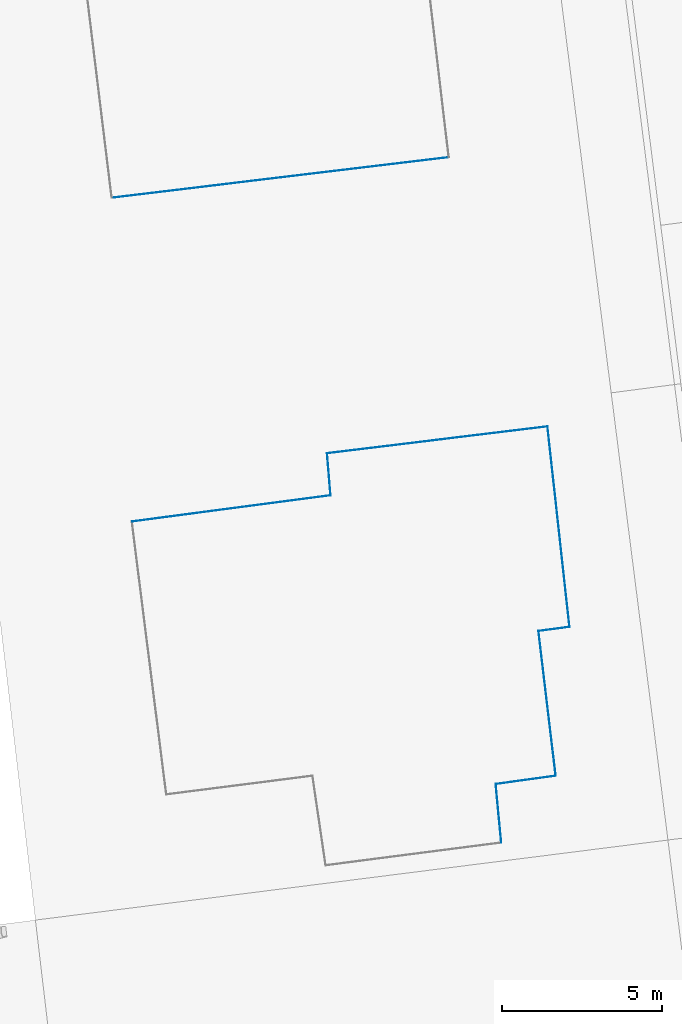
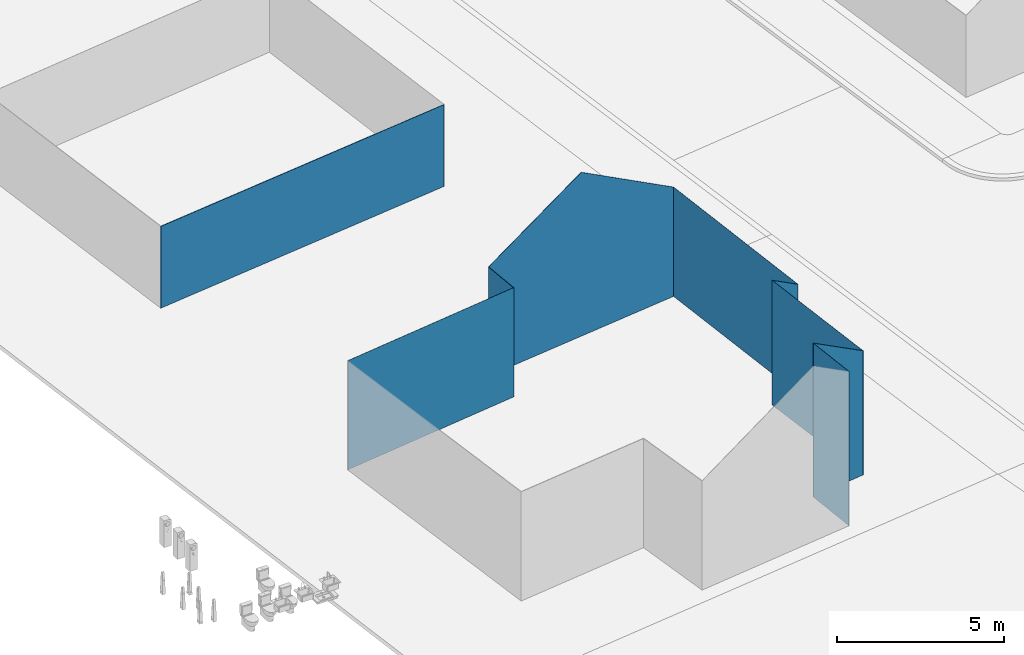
# One storey, part 22 of 75: 9 walls.
"""IFC2X3 building model written with IfcOpenShell, lengths in metres."""

from ifc_helpers import new_model, entity, si_unit, converted_unit, derived_unit, direction, frame, origin, place, context, subcontext, project, spatial, polyline, outline, extrude, clip, bounded_halfspace, material, layer, layer_set, layer_usage, type_object, element, save


model = new_model("IFC2X3")

# Units and contexts
model_context = context("Model", 3, precision=1e-05, world=origin(), true_north=direction((6.123031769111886e-17, 1.0)))
body_context = subcontext(model_context, "Body", "Model", "MODEL_VIEW")
ifc_project = project(units=[si_unit("LENGTHUNIT", "METRE"), si_unit("AREAUNIT", "SQUARE_METRE"), si_unit("VOLUMEUNIT", "CUBIC_METRE"), converted_unit("PLANEANGLEUNIT", "DEGREE", entity("IfcRatioMeasure", 0.017453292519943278), si_unit("PLANEANGLEUNIT", "RADIAN"), dimensions=[0, 0, 0, 0, 0, 0, 0]), si_unit("MASSUNIT", "GRAM", prefix="KILO"), derived_unit("MASSDENSITYUNIT", [(si_unit("MASSUNIT", "GRAM", prefix="KILO"), 1), (si_unit("LENGTHUNIT", "METRE"), -3)]), derived_unit("IONCONCENTRATIONUNIT", [(si_unit("MASSUNIT", "GRAM", prefix="KILO"), 1), (si_unit("LENGTHUNIT", "METRE"), -3)]), derived_unit("MOMENTOFINERTIAUNIT", [(si_unit("LENGTHUNIT", "METRE"), 4)]), si_unit("TIMEUNIT", "SECOND"), si_unit("FREQUENCYUNIT", "HERTZ"), si_unit("THERMODYNAMICTEMPERATUREUNIT", "DEGREE_CELSIUS"), derived_unit("THERMALTRANSMITTANCEUNIT", [(si_unit("MASSUNIT", "GRAM", prefix="KILO"), 1), (si_unit("THERMODYNAMICTEMPERATUREUNIT", "KELVIN"), -1), (si_unit("TIMEUNIT", "SECOND"), -3)]), derived_unit("THERMALCONDUCTANCEUNIT", [(si_unit("MASSUNIT", "GRAM", prefix="KILO"), 1), (si_unit("THERMODYNAMICTEMPERATUREUNIT", "KELVIN"), -1), (si_unit("TIMEUNIT", "SECOND"), -3), (si_unit("LENGTHUNIT", "METRE"), 1)]), derived_unit("VOLUMETRICFLOWRATEUNIT", [(si_unit("LENGTHUNIT", "METRE"), 3), (si_unit("TIMEUNIT", "SECOND"), -1)]), derived_unit("MASSFLOWRATEUNIT", [(si_unit("MASSUNIT", "GRAM", prefix="KILO"), 1), (si_unit("TIMEUNIT", "SECOND"), -1)]), derived_unit("ROTATIONALFREQUENCYUNIT", [(si_unit("TIMEUNIT", "SECOND"), -1)]), si_unit("ELECTRICCURRENTUNIT", "AMPERE"), si_unit("ELECTRICVOLTAGEUNIT", "VOLT"), si_unit("POWERUNIT", "WATT"), si_unit("FORCEUNIT", "NEWTON", prefix="KILO"), si_unit("ILLUMINANCEUNIT", "LUX"), si_unit("LUMINOUSFLUXUNIT", "LUMEN"), si_unit("LUMINOUSINTENSITYUNIT", "CANDELA"), derived_unit("USERDEFINED", [(si_unit("MASSUNIT", "GRAM", prefix="KILO"), -1), (si_unit("LENGTHUNIT", "METRE"), -2), (si_unit("TIMEUNIT", "SECOND"), 3), (si_unit("LUMINOUSFLUXUNIT", "LUMEN"), 1)]), derived_unit("USERDEFINED", [(si_unit("MASSUNIT", "GRAM", prefix="KILO"), 1), (si_unit("TIMEUNIT", "SECOND"), -3), (si_unit("LENGTHUNIT", "METRE"), 3), (si_unit("ELECTRICCURRENTUNIT", "AMPERE"), -2)]), derived_unit("SOUNDPOWERUNIT", [(si_unit("MASSUNIT", "GRAM", prefix="KILO"), 1), (si_unit("TIMEUNIT", "SECOND"), -3), (si_unit("LENGTHUNIT", "METRE"), 2)]), derived_unit("SOUNDPRESSUREUNIT", [(si_unit("MASSUNIT", "GRAM", prefix="KILO"), 1), (si_unit("LENGTHUNIT", "METRE"), -1), (si_unit("TIMEUNIT", "SECOND"), -2)]), derived_unit("LINEARVELOCITYUNIT", [(si_unit("LENGTHUNIT", "METRE"), 1), (si_unit("TIMEUNIT", "SECOND"), -1)]), si_unit("PRESSUREUNIT", "PASCAL"), derived_unit("USERDEFINED", [(si_unit("MASSUNIT", "GRAM", prefix="KILO"), 1), (si_unit("LENGTHUNIT", "METRE"), -2), (si_unit("TIMEUNIT", "SECOND"), -2)]), derived_unit("LINEARFORCEUNIT", [(si_unit("MASSUNIT", "GRAM", prefix="KILO"), 1), (si_unit("TIMEUNIT", "SECOND"), -2)]), derived_unit("PLANARFORCEUNIT", [(si_unit("MASSUNIT", "GRAM", prefix="KILO"), 1), (si_unit("LENGTHUNIT", "METRE"), -1), (si_unit("TIMEUNIT", "SECOND"), -2)]), derived_unit("SPECIFICHEATCAPACITYUNIT", [(si_unit("THERMODYNAMICTEMPERATUREUNIT", "KELVIN"), -1), (si_unit("LENGTHUNIT", "METRE"), 2), (si_unit("TIMEUNIT", "SECOND"), -2)]), derived_unit("HEATINGVALUEUNIT", [(si_unit("LENGTHUNIT", "METRE"), 2), (si_unit("TIMEUNIT", "SECOND"), -2)]), derived_unit("VAPORPERMEABILITYUNIT", [(si_unit("LENGTHUNIT", "METRE"), -1), (si_unit("TIMEUNIT", "SECOND"), 1)]), derived_unit("DYNAMICVISCOSITYUNIT", [(si_unit("MASSUNIT", "GRAM", prefix="KILO"), 1), (si_unit("TIMEUNIT", "SECOND"), -1), (si_unit("LENGTHUNIT", "METRE"), -1)]), derived_unit("THERMALEXPANSIONCOEFFICIENTUNIT", [(si_unit("THERMODYNAMICTEMPERATUREUNIT", "KELVIN"), -1)]), derived_unit("MODULUSOFELASTICITYUNIT", [(si_unit("MASSUNIT", "GRAM", prefix="KILO"), 1), (si_unit("LENGTHUNIT", "METRE"), -1), (si_unit("TIMEUNIT", "SECOND"), -2)]), derived_unit("ISOTHERMALMOISTURECAPACITYUNIT", [(si_unit("LENGTHUNIT", "METRE"), 3), (si_unit("MASSUNIT", "GRAM", prefix="KILO"), -1)]), derived_unit("MOISTUREDIFFUSIVITYUNIT", [(si_unit("TIMEUNIT", "SECOND"), -1), (si_unit("LENGTHUNIT", "METRE"), 2)])], contexts=[model_context])

# Site, building, storey
site_placement = place(None, origin())
site = spatial("IfcSite", under=ifc_project, at=site_placement, Name="Default", CompositionType="ELEMENT")
building_placement = place(site_placement, origin())
building = spatial("IfcBuilding", under=site, at=building_placement, Name="Projeto", CompositionType="ELEMENT")
storey_placement = place(building_placement, origin())
storey = spatial("IfcBuildingStorey", under=building, at=storey_placement, Name="Nível 1", CompositionType="ELEMENT", Elevation=0.0)

# Walls
ifc_material = material(Name="Metal")
ifc_layer = layer(ifc_material, 0.01)
ifc_layer_set = layer_set([ifc_layer], Name="Parede básica:JA_Aluminio")
ifc_layer_usage = layer_usage(ifc_layer_set, "AXIS2", "NEGATIVE", 0.005)
wall_type = type_object("IfcWallType", Name="Parede básica:JA_Aluminio", PredefinedType="STANDARD", material=ifc_layer_set)
wall_1_placement = place(storey_placement, frame((-44.934145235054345, 49.519373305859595, -2.6), z_axis=(0.0, 0.0, 1.0), x_axis=(-0.9928466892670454, -0.11939619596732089, 0.0)))
element("IfcWallStandardCase", 1, at=wall_1_placement, inside=storey, type_object=wall_type, material=ifc_layer_usage, Name="Parede básica:JA_Aluminio", ObjectType="Parede básica:JA_Aluminio", context=body_context, shape_type="Clipping", body=[
    clip(clip(extrude(outline(polyline([(10.627913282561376, -0.004999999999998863), (10.627893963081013, 0.005000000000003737), (2.217026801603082e-05, 0.005000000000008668), (0.0, -0.004999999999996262), (10.617913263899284, -0.005000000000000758), (10.627913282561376, -0.004999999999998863)])), origin(), (0.0, 0.0, 1.0), 3.0057735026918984), bounded_halfspace(frame((10.617913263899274, -0.005000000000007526, 3.005773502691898), z_axis=(0.4999990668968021, 0.0009659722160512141, 0.8660254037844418), x_axis=(-0.001931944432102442, 0.9999981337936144, 0.0)), False, frame((10.617913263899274, -0.005000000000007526, 3.005773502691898)), polyline([(0.0, 0.0), (0.010000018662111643, 0.0), (0.009980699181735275, 0.01000000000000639), (0.0, 0.0)]))), bounded_halfspace(frame((0.0, -0.005000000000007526, 3.005773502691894), z_axis=(0.0, 0.4999999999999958, 0.8660254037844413), x_axis=(-1.0, 0.0, 0.0)), False, frame((0.0, -0.005000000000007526, 3.005773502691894)), polyline([(0.0, 0.0), (10.617913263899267, 0.0), (10.627893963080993, 0.010000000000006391), (2.2170268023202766e-05, 0.01000000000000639), (0.0, 0.0)]))),
])
wall_2_placement = place(storey_placement, frame((-41.83782785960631, 41.0864836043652, -2.6), z_axis=(0.0, 0.0, 1.0), x_axis=(0.10930960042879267, -0.9940077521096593, 0.0)))
element("IfcWallStandardCase", 2, at=wall_2_placement, inside=storey, type_object=wall_type, material=ifc_layer_usage, Name="Parede básica:JA_Aluminio", ObjectType="Parede básica:JA_Aluminio", context=body_context, shape_type="Clipping", body=[
    clip(extrude(outline(polyline([(6.313418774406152, -0.004999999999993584), (6.3131892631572, 0.004999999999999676), (0.0, 0.005000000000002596), (0.0001167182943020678, -0.004999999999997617), (6.3034161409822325, -0.0049999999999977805), (6.313418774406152, -0.004999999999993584)])), origin(), (0.0, 0.0, 1.0), 4.005773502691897), bounded_halfspace(frame((0.00011671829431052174, -0.00499999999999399, 4.005773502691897), z_axis=(0.0, 0.4999999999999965, 0.8660254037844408), x_axis=(-1.0, 0.0, 0.0)), False, frame((0.00011671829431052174, -0.00499999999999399, 4.005773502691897)), polyline([(0.0, 0.0), (6.3032994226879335, 0.0), (6.313302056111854, 0.0), (6.313072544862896, 0.00999999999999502), (-0.00011671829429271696, 0.009999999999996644), (0.0, 0.0)]))),
])
wall_3_placement = place(storey_placement, frame((-41.15311355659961, 34.81533635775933, -2.6), z_axis=(0.0, 0.0, 1.0), x_axis=(-0.9912379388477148, -0.13208841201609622, 0.0)))
element("IfcWallStandardCase", 3, at=wall_3_placement, inside=storey, type_object=wall_type, material=ifc_layer_usage, Name="Parede básica:JA_Aluminio", ObjectType="Parede básica:JA_Aluminio", context=body_context, shape_type="Clipping", body=[
    clip(extrude(outline(polyline([(0.9805045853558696, -0.0050000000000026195), (0.9806436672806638, 0.0049999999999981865), (0.9706427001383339, 0.004999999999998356), (0.00022951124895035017, 0.005000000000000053), (0.0, -0.005000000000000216), (0.9805045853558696, -0.0050000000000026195)])), origin(), (0.0, 0.0, 1.0), 4.571719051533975), bounded_halfspace(frame((0.0, -0.005000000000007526, 4.005773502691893), z_axis=(-0.4998683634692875, 0.011472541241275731, 0.8660254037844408), x_axis=(-0.022945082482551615, -0.9997367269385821, 0.0)), False, frame((0.0, -0.005000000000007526, 4.005773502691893)), polyline([(0.0, 0.0), (0.9805045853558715, 0.0), (0.9806436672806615, 0.01000000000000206), (0.9706427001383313, 0.01000000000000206), (0.0002295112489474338, 0.01000000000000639), (0.0, 0.0)]))),
])
wall_4_placement = place(storey_placement, frame((-42.119555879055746, 34.681578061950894, -2.6), z_axis=(0.0, 0.0, 1.0), x_axis=(0.11829064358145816, -0.9929790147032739, 0.0)))
element("IfcWallStandardCase", 4, at=wall_4_placement, inside=storey, type_object=wall_type, material=ifc_layer_usage, Name="Parede básica:JA_Aluminio", ObjectType="Parede básica:JA_Aluminio", context=body_context, shape_type="Clipping", body=[
    clip(extrude(outline(polyline([(4.564506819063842, -0.004999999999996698), (4.5643227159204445, 0.005000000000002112), (0.0, 0.00500000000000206), (0.00013908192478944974, -0.004999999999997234), (4.554505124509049, -0.005000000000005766), (4.564506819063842, -0.004999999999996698)])), origin(), (0.0, 0.0, 1.0), 4.571666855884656), bounded_halfspace(frame((0.00013908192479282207, -0.0050000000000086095, 4.571666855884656), z_axis=(0.004519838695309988, 0.49997957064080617, 0.8660254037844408), x_axis=(-0.9999591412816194, 0.00903967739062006, 0.0)), False, frame((0.00013908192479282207, -0.0050000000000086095, 4.571666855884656)), polyline([(0.0, 0.0), (4.564367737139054, 0.0), (4.564183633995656, 0.010000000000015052), (-0.00013908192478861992, 0.010000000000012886), (0.0, 0.0)]))),
])
wall_5_placement = place(storey_placement, frame((-41.58508268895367, 30.15350543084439, -2.6), z_axis=(0.0, 0.0, 1.0), x_axis=(-0.9906333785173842, -0.1365485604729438, 0.0)))
element("IfcWallStandardCase", 5, at=wall_5_placement, inside=storey, type_object=wall_type, material=ifc_layer_usage, Name="Parede básica:JA_Aluminio", ObjectType="Parede básica:JA_Aluminio", context=body_context, shape_type="Clipping", body=[
    clip(extrude(outline(polyline([(1.8963881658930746, -0.005000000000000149), (1.8968190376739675, 0.004999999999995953), (1.8868097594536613, 0.004999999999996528), (0.00018410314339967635, 0.004999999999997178), (0.0, -0.0050000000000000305), (1.8963881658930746, -0.005000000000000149)])), origin(), (0.0, 0.0, 1.0), 5.642455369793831), bounded_halfspace(frame((0.0, -0.005000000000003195, 4.54789734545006), z_axis=(-0.4998116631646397, 0.013722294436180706, 0.8660254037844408), x_axis=(-0.027444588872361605, -0.9996233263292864, 0.0)), False, frame((0.0, -0.005000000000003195, 4.54789734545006)), polyline([(0.0, 0.0), (1.8963881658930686, 0.0), (1.8968190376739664, 0.01000000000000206), (1.886809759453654, 0.009999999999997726), (0.0001841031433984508, 0.009999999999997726), (0.0, 0.0)]))),
])
wall_6_placement = place(storey_placement, frame((-43.45851463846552, 29.89044221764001, -2.6), z_axis=(0.0, 0.0, 1.0), x_axis=(0.09377795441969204, -0.995593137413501, 0.0)))
element("IfcWallStandardCase", 6, at=wall_6_placement, inside=storey, type_object=wall_type, material=ifc_layer_usage, Name="Parede básica:JA_Aluminio", ObjectType="Parede básica:JA_Aluminio", context=body_context, shape_type="Clipping", body=[
    clip(extrude(outline(polyline([(1.8429586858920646, -0.004999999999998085), (1.8426115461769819, 0.00499999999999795), (0.0, 0.004999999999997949), (0.00043087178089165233, -0.004999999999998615), (1.8329526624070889, -0.004999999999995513), (1.8429586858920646, -0.004999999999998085)])), origin(), (0.0, 0.0, 1.0), 5.659063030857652), bounded_halfspace(frame((0.00043087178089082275, -0.004999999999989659, 5.642455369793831), z_axis=(-0.007805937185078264, 0.4999390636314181, 0.8660254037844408), x_axis=(-0.9998781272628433, -0.01561187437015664, 0.0)), False, frame((0.00043087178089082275, -0.004999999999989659, 5.642455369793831)), polyline([(0.0, 0.0), (1.8425278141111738, 0.0), (1.8421806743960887, 0.009999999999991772), (-0.0004308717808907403, 0.009999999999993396), (0.0, 0.0)]))),
])
wall_7_placement = place(storey_placement, frame((-54.8457749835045, 38.1149703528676, -2.6), z_axis=(0.0, 0.0, 1.0), x_axis=(0.9914182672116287, 0.13072803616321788, 0.0)))
element("IfcWallStandardCase", 7, at=wall_7_placement, inside=storey, type_object=wall_type, material=ifc_layer_usage, Name="Parede básica:JA_Aluminio", ObjectType="Parede básica:JA_Aluminio", context=body_context, shape_type="Clipping", body=[
    clip(clip(extrude(outline(polyline([(6.273053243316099, -0.004999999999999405), (6.273546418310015, 0.005000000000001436), (6.263534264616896, 0.004999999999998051), (5.589110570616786e-05, 0.004999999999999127), (0.0, -0.005000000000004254), (6.273053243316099, -0.004999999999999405)])), origin(), (0.0, 0.0, 1.0), 4.005773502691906), bounded_halfspace(frame((6.273053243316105, -0.005000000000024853, 4.0057735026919), z_axis=(-0.49939305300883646, 0.02462881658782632, 0.8660254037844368), x_axis=(-0.04925763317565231, -0.9987861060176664, 0.0)), False, frame((6.273053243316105, -0.005000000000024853, 4.0057735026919)), polyline([(0.0, 0.0), (0.0004931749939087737, 0.010000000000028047), (-0.009518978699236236, 0.010000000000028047), (0.0, 0.0)]))), bounded_halfspace(frame((0.0, -0.004999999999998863, 4.005773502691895), z_axis=(0.0, 0.4999999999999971, 0.8660254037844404), x_axis=(-1.0, 0.0, 0.0)), False, frame((0.0, -0.004999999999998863, 4.005773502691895)), polyline([(0.0, 0.0), (6.273053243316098, 0.0), (6.263534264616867, 0.010000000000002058), (5.5891105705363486e-05, 0.010000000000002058), (0.0, 0.0)]))),
])
wall_8_placement = place(storey_placement, frame((-48.6316630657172, 38.93915565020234, -2.6), z_axis=(0.0, 0.0, 1.0), x_axis=(-0.08173442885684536, 0.9966541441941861, 0.0)))
element("IfcWallStandardCase", 8, at=wall_8_placement, inside=storey, type_object=wall_type, material=ifc_layer_usage, Name="Parede básica:JA_Aluminio", ObjectType="Parede básica:JA_Aluminio", context=body_context, shape_type="Clipping", body=[
    clip(extrude(outline(polyline([(1.3213415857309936, -0.0049999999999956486), (1.3209476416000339, 0.0050000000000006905), (0.0, 0.005000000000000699), (0.0004931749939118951, -0.005000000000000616), (1.3113338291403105, -0.0049999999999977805), (1.3213415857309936, -0.0049999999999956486)])), origin(), (0.0, 0.0, 1.0), 4.005773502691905), bounded_halfspace(frame((0.0004931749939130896, -0.005000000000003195, 4.005773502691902), z_axis=(0.0, 0.5000000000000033, 0.8660254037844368), x_axis=(-1.0, 0.0, 0.0)), False, frame((0.0004931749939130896, -0.005000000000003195, 4.005773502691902)), polyline([(0.0, 0.0), (1.3108406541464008, 0.0), (1.3208484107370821, 0.0), (1.3204544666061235, 0.009999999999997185), (-0.0004931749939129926, 0.009999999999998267), (0.0, 0.0)]))),
])
wall_9_placement = place(storey_placement, frame((-48.73446543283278, 40.25147393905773, -2.6), z_axis=(0.0, 0.0, 1.0), x_axis=(0.9926642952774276, 0.12090325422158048, 0.0)))
element("IfcWallStandardCase", 9, at=wall_9_placement, inside=storey, type_object=wall_type, material=ifc_layer_usage, Name="Parede básica:JA_Aluminio", ObjectType="Parede básica:JA_Aluminio", context=body_context, shape_type="Clipping", body=[
    clip(clip(extrude(outline(polyline([(6.952000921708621, -0.005000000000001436), (6.952117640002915, 0.005000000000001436), (0.00039394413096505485, 0.00500000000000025), (0.0, -0.005000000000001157), (6.942000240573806, -0.005000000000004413), (6.952000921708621, -0.005000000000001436)])), origin(), (0.0, 0.0, 1.0), 6.0089112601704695), bounded_halfspace(frame((0.0, -0.004999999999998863, 4.005773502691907), z_axis=(-0.49961247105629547, 0.01968194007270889, 0.8660254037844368), x_axis=(-0.039363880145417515, -0.9992249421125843, 0.0)), False, frame((0.0, -0.004999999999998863, 4.005773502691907)), polyline([(0.0, 0.0), (3.4722275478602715, 0.0), (3.4724828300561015, 0.01000000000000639), (0.00039394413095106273, 0.009999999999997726), (0.0, 0.0)]))), bounded_halfspace(frame((3.4722275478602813, -0.005000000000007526, 6.0089112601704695), z_axis=(0.4999659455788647, -0.005835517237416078, 0.8660254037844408), x_axis=(0.011671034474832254, 0.9999318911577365, 0.0)), False, frame((3.4722275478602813, -0.005000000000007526, 6.0089112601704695)), polyline([(0.0, 0.0), (3.469772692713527, 0.0), (3.479773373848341, 0.0), (3.4798900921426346, 0.010000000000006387), (0.00025528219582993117, 0.010000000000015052), (0.0, 0.0)]))),
])

save(model, "model.ifc")
